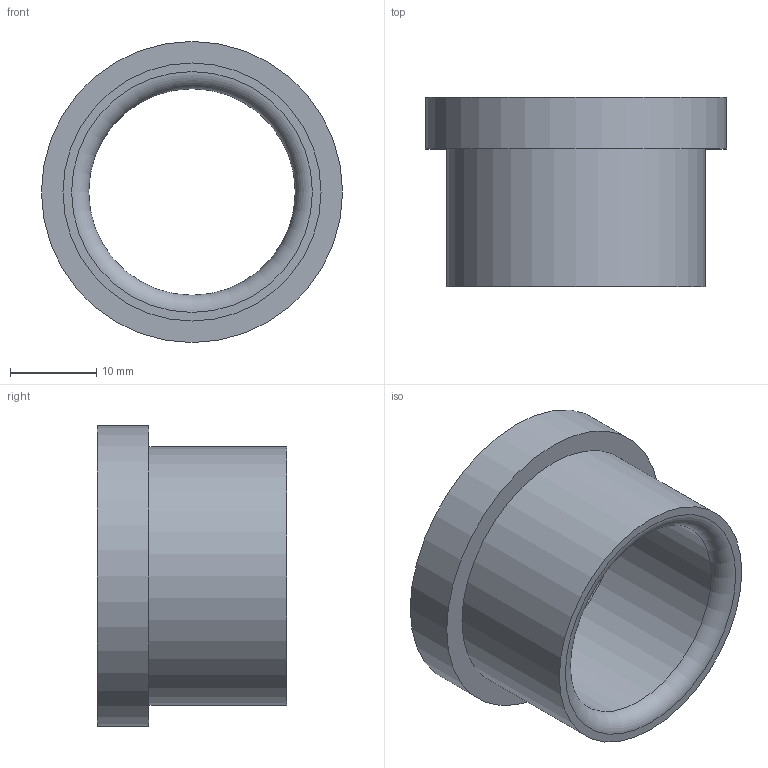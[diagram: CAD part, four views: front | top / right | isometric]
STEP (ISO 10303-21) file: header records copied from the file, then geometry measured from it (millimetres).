
FILE_DESCRIPTION(/* description */ ('STEP AP214'),/* implementation_level */ '2;1');
FILE_NAME(/* name */ '03_12_17933',/* time_stamp */ '2023-06-15T11:35:35+02:00',/* author */ ('License CC BY-ND 4.0'),/* organization */ ('CADENAS'),/* preprocessor_version */ 'ST-DEVELOPER v19.3',/* originating_system */ 'PARTsolutions',/* authorisation */ ' ');
FILE_SCHEMA (('AUTOMOTIVE_DESIGN {1 0 10303 214 3 1 1}'));
Length unit declared in the file: millimetre
Products named in the file (1): VA_Bushing_17933
Bounding box: 35 x 22 x 35 mm (x, y, z)
Volume: 6893.2 mm3; surface area: 4726.7 mm2
Topology: 1 solids, 1 shells, 10 faces, 16 edges, 10 vertices
Faces by surface type: cylinder 4, plane 4, torus 2
Full cylindrical faces by diameter (mm): 24 x1, 24.6 x1, 30 x1, 35 x1
Entity records: 302 total; most frequent: DIRECTION 42, CARTESIAN_POINT 31, AXIS2_PLACEMENT_3D 21, ORIENTED_EDGE 20, EDGE_LOOP 20, FACE_BOUND 20, EDGE_CURVE 10, VERTEX_POINT 10
